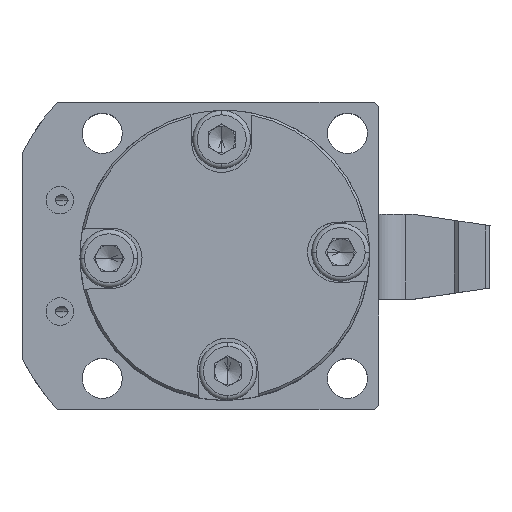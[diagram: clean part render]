
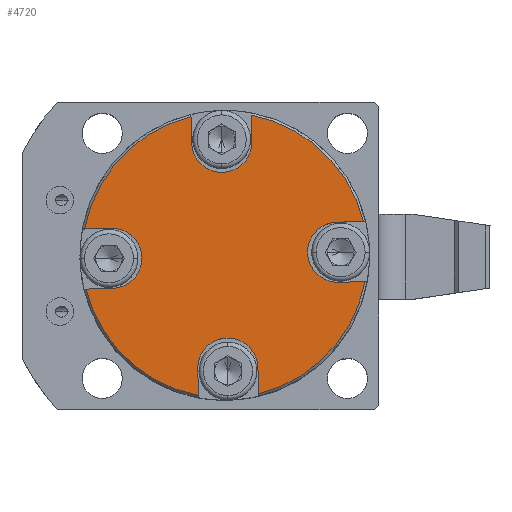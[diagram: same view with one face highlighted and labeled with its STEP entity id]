
A CAD part, top view. The second image highlights one B-rep face of the part: STEP entity #4720.
In plain terms, the highlighted planar face has unit normal (0, 0, 1) as drawn and (0, -1, 0) by its records, which use the part's own axes.
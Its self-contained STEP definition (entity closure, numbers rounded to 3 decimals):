
#71 = EDGE_CURVE ( 'NONE', #19013, #21711, #20400, .T. ) ;
#72 = EDGE_CURVE ( 'NONE', #19038, #19040, #20401, .T. ) ;
#73 = EDGE_CURVE ( 'NONE', #21563, #18991, #20402, .T. ) ;
#74 = EDGE_CURVE ( 'NONE', #21563, #19199, #10868, .T. ) ;
#75 = EDGE_CURVE ( 'NONE', #18999, #19022, #20403, .T. ) ;
#78 = EDGE_CURVE ( 'NONE', #21670, #19038, #10877, .T. ) ;
#79 = EDGE_CURVE ( 'NONE', #19048, #21670, #20405, .T. ) ;
#84 = EDGE_CURVE ( 'NONE', #19036, #19199, #20407, .T. ) ;
#85 = EDGE_CURVE ( 'NONE', #19022, #19036, #10884, .T. ) ;
#92 = EDGE_CURVE ( 'NONE', #21737, #19016, #20409, .T. ) ;
#93 = EDGE_CURVE ( 'NONE', #21711, #21737, #10903, .T. ) ;
#94 = EDGE_CURVE ( 'NONE', #6333, #21742, #20410, .T. ) ;
#95 = EDGE_CURVE ( 'NONE', #18991, #6194, #10907, .T. ) ;
#1159 = ORIENTED_EDGE ( 'NONE', *, *, #93, .F. ) ;
#1162 = ORIENTED_EDGE ( 'NONE', *, *, #18012, .T. ) ;
#1163 = ORIENTED_EDGE ( 'NONE', *, *, #92, .F. ) ;
#1164 = ORIENTED_EDGE ( 'NONE', *, *, #71, .F. ) ;
#1165 = ORIENTED_EDGE ( 'NONE', *, *, #18018, .T. ) ;
#1166 = ORIENTED_EDGE ( 'NONE', *, *, #72, .F. ) ;
#1167 = ORIENTED_EDGE ( 'NONE', *, *, #79, .F. ) ;
#1168 = ORIENTED_EDGE ( 'NONE', *, *, #78, .F. ) ;
#1169 = ORIENTED_EDGE ( 'NONE', *, *, #18021, .T. ) ;
#1170 = ORIENTED_EDGE ( 'NONE', *, *, #94, .F. ) ;
#1171 = ORIENTED_EDGE ( 'NONE', *, *, #17950, .F. ) ;
#1172 = ORIENTED_EDGE ( 'NONE', *, *, #95, .F. ) ;
#1173 = ORIENTED_EDGE ( 'NONE', *, *, #74, .T. ) ;
#1174 = ORIENTED_EDGE ( 'NONE', *, *, #73, .F. ) ;
#1175 = ORIENTED_EDGE ( 'NONE', *, *, #84, .F. ) ;
#1176 = ORIENTED_EDGE ( 'NONE', *, *, #85, .F. ) ;
#1177 = ORIENTED_EDGE ( 'NONE', *, *, #75, .F. ) ;
#1835 = AXIS2_PLACEMENT_3D ( 'NONE', #10597, #10598, #10599 ) ;
#4036 = CIRCLE ( 'NONE', #4042, 6.75 ) ;
#4042 = AXIS2_PLACEMENT_3D ( 'NONE', #11641, #11642, #11643 ) ;
#4144 = CIRCLE ( 'NONE', #4145, 32. ) ;
#4145 = AXIS2_PLACEMENT_3D ( 'NONE', #11804, #11805, #11806 ) ;
#4148 = CIRCLE ( 'NONE', #4149, 32. ) ;
#4149 = AXIS2_PLACEMENT_3D ( 'NONE', #11826, #11827, #11828 ) ;
#4150 = CIRCLE ( 'NONE', #4151, 32. ) ;
#4151 = AXIS2_PLACEMENT_3D ( 'NONE', #11837, #11838, #11839 ) ;
#4720 = ADVANCED_FACE ( 'NONE', ( #21145 ), #10596, .F. ) ;
#6194 = VERTEX_POINT ( 'NONE', #9280 ) ;
#6333 = VERTEX_POINT ( 'NONE', #9402 ) ;
#9280 = CARTESIAN_POINT ( 'NONE',  ( 759.407, 3487.524, 18.582 ) ) ;
#9402 = CARTESIAN_POINT ( 'NONE',  ( 766.157, 3487.524, 25.332 ) ) ;
#10596 = PLANE ( 'NONE',  #1835 ) ;
#10597 = CARTESIAN_POINT ( 'NONE',  ( 759.407, 3487.524, 0. ) ) ;
#10598 = DIRECTION ( 'NONE',  ( 0., 1., 0. ) ) ;
#10599 = DIRECTION ( 'NONE',  ( 0., 0., 1. ) ) ;
#10868 = CIRCLE ( 'NONE', #10872, 32. ) ;
#10869 = VECTOR ( 'NONE', #23142, 1000. ) ;
#10870 = VECTOR ( 'NONE', #23140, 1000. ) ;
#10871 = VECTOR ( 'NONE', #23144, 1000. ) ;
#10872 = AXIS2_PLACEMENT_3D ( 'NONE', #23138, #23137, #23131 ) ;
#10875 = VECTOR ( 'NONE', #23136, 1000. ) ;
#10877 = CIRCLE ( 'NONE', #10880, 6.75 ) ;
#10880 = AXIS2_PLACEMENT_3D ( 'NONE', #22922, #22937, #22947 ) ;
#10882 = VECTOR ( 'NONE', #22899, 1000. ) ;
#10884 = CIRCLE ( 'NONE', #10892, 6.75 ) ;
#10891 = VECTOR ( 'NONE', #22920, 1000. ) ;
#10892 = AXIS2_PLACEMENT_3D ( 'NONE', #22923, #22914, #22928 ) ;
#10903 = CIRCLE ( 'NONE', #10905, 6.75 ) ;
#10904 = VECTOR ( 'NONE', #22919, 1000. ) ;
#10905 = AXIS2_PLACEMENT_3D ( 'NONE', #22915, #22909, #22911 ) ;
#10907 = CIRCLE ( 'NONE', #10909, 6.75 ) ;
#10908 = VECTOR ( 'NONE', #22900, 1000. ) ;
#10909 = AXIS2_PLACEMENT_3D ( 'NONE', #22892, #22896, #22895 ) ;
#11641 = CARTESIAN_POINT ( 'NONE',  ( 759.407, 3487.524, 25.332 ) ) ;
#11642 = DIRECTION ( 'NONE',  ( 0., -1., 0. ) ) ;
#11643 = DIRECTION ( 'NONE',  ( 1., 0., 0. ) ) ;
#11804 = CARTESIAN_POINT ( 'NONE',  ( 759.407, 3487.524, 0. ) ) ;
#11805 = DIRECTION ( 'NONE',  ( 0., -1., 0. ) ) ;
#11806 = DIRECTION ( 'NONE',  ( 0., 0., 1. ) ) ;
#11826 = CARTESIAN_POINT ( 'NONE',  ( 759.407, 3487.524, 0. ) ) ;
#11827 = DIRECTION ( 'NONE',  ( 0., -1., 0. ) ) ;
#11828 = DIRECTION ( 'NONE',  ( 0., 0., 1. ) ) ;
#11837 = CARTESIAN_POINT ( 'NONE',  ( 759.407, 3487.524, 0. ) ) ;
#11838 = DIRECTION ( 'NONE',  ( 0., -1., 0. ) ) ;
#11839 = DIRECTION ( 'NONE',  ( 0., 0., 1. ) ) ;
#11979 = CARTESIAN_POINT ( 'NONE',  ( 752.657, 3487.524, 25.332 ) ) ;
#11987 = CARTESIAN_POINT ( 'NONE',  ( 728.127, 3487.524, -6.75 ) ) ;
#12001 = CARTESIAN_POINT ( 'NONE',  ( 766.157, 3487.524, -31.28 ) ) ;
#12004 = CARTESIAN_POINT ( 'NONE',  ( 752.657, 3487.524, -31.28 ) ) ;
#12010 = CARTESIAN_POINT ( 'NONE',  ( 734.075, 3487.524, -6.75 ) ) ;
#12024 = CARTESIAN_POINT ( 'NONE',  ( 734.075, 3487.524, 6.75 ) ) ;
#12026 = CARTESIAN_POINT ( 'NONE',  ( 784.738, 3487.524, -6.75 ) ) ;
#12028 = CARTESIAN_POINT ( 'NONE',  ( 790.687, 3487.524, -6.75 ) ) ;
#12036 = CARTESIAN_POINT ( 'NONE',  ( 790.687, 3487.524, 6.75 ) ) ;
#12187 = CARTESIAN_POINT ( 'NONE',  ( 728.127, 3487.524, 6.75 ) ) ;
#12424 = CARTESIAN_POINT ( 'NONE',  ( 752.657, 3487.524, 31.28 ) ) ;
#12531 = CARTESIAN_POINT ( 'NONE',  ( 784.738, 3487.524, 6.75 ) ) ;
#12572 = CARTESIAN_POINT ( 'NONE',  ( 766.157, 3487.524, -25.332 ) ) ;
#16780 = CARTESIAN_POINT ( 'NONE',  ( 752.657, 3487.524, -25.332 ) ) ;
#16785 = CARTESIAN_POINT ( 'NONE',  ( 766.157, 3487.524, 31.28 ) ) ;
#17950 = EDGE_CURVE ( 'NONE', #6194, #6333, #4036, .T. ) ;
#18012 = EDGE_CURVE ( 'NONE', #18999, #19016, #4144, .T. ) ;
#18018 = EDGE_CURVE ( 'NONE', #19013, #19040, #4148, .T. ) ;
#18021 = EDGE_CURVE ( 'NONE', #19048, #21742, #4150, .T. ) ;
#18991 = VERTEX_POINT ( 'NONE', #11979 ) ;
#18999 = VERTEX_POINT ( 'NONE', #11987 ) ;
#19013 = VERTEX_POINT ( 'NONE', #12001 ) ;
#19016 = VERTEX_POINT ( 'NONE', #12004 ) ;
#19022 = VERTEX_POINT ( 'NONE', #12010 ) ;
#19036 = VERTEX_POINT ( 'NONE', #12024 ) ;
#19038 = VERTEX_POINT ( 'NONE', #12026 ) ;
#19040 = VERTEX_POINT ( 'NONE', #12028 ) ;
#19048 = VERTEX_POINT ( 'NONE', #12036 ) ;
#19199 = VERTEX_POINT ( 'NONE', #12187 ) ;
#19781 = EDGE_LOOP ( 'NONE', ( #1162, #1163, #1159, #1164, #1165, #1166, #1168, #1167, #1169, #1170, #1171, #1172, #1174, #1173, #1175, #1176, #1177 ) ) ;
#20400 = LINE ( 'NONE', #23143, #10869 ) ;
#20401 = LINE ( 'NONE', #23141, #10870 ) ;
#20402 = LINE ( 'NONE', #23139, #10871 ) ;
#20403 = LINE ( 'NONE', #23135, #10875 ) ;
#20405 = LINE ( 'NONE', #22894, #10882 ) ;
#20407 = LINE ( 'NONE', #22916, #10891 ) ;
#20409 = LINE ( 'NONE', #22917, #10904 ) ;
#20410 = LINE ( 'NONE', #22906, #10908 ) ;
#21145 = FACE_OUTER_BOUND ( 'NONE', #19781, .T. ) ;
#21563 = VERTEX_POINT ( 'NONE', #12424 ) ;
#21670 = VERTEX_POINT ( 'NONE', #12531 ) ;
#21711 = VERTEX_POINT ( 'NONE', #12572 ) ;
#21737 = VERTEX_POINT ( 'NONE', #16780 ) ;
#21742 = VERTEX_POINT ( 'NONE', #16785 ) ;
#22892 = CARTESIAN_POINT ( 'NONE',  ( 759.407, 3487.524, 25.332 ) ) ;
#22894 = CARTESIAN_POINT ( 'NONE',  ( 791.198, 3487.524, 6.75 ) ) ;
#22895 = DIRECTION ( 'NONE',  ( 1., 0., 0. ) ) ;
#22896 = DIRECTION ( 'NONE',  ( 0., -1., 0. ) ) ;
#22899 = DIRECTION ( 'NONE',  ( -1., 0., 0. ) ) ;
#22900 = DIRECTION ( 'NONE',  ( 0., 0., 1. ) ) ;
#22906 = CARTESIAN_POINT ( 'NONE',  ( 766.157, 3487.524, 31.791 ) ) ;
#22909 = DIRECTION ( 'NONE',  ( 0., -1., 0. ) ) ;
#22911 = DIRECTION ( 'NONE',  ( -1., 0., 0. ) ) ;
#22914 = DIRECTION ( 'NONE',  ( 0., -1., 0. ) ) ;
#22915 = CARTESIAN_POINT ( 'NONE',  ( 759.407, 3487.524, -25.332 ) ) ;
#22916 = CARTESIAN_POINT ( 'NONE',  ( 727.615, 3487.524, 6.75 ) ) ;
#22917 = CARTESIAN_POINT ( 'NONE',  ( 752.657, 3487.524, -31.791 ) ) ;
#22919 = DIRECTION ( 'NONE',  ( 0., 0., -1. ) ) ;
#22920 = DIRECTION ( 'NONE',  ( -1., 0., 0. ) ) ;
#22922 = CARTESIAN_POINT ( 'NONE',  ( 784.738, 3487.524, 0. ) ) ;
#22923 = CARTESIAN_POINT ( 'NONE',  ( 734.075, 3487.524, 0. ) ) ;
#22928 = DIRECTION ( 'NONE',  ( 0., 0., 1. ) ) ;
#22937 = DIRECTION ( 'NONE',  ( 0., -1., 0. ) ) ;
#22947 = DIRECTION ( 'NONE',  ( 0., 0., -1. ) ) ;
#23131 = DIRECTION ( 'NONE',  ( 0., 0., 1. ) ) ;
#23135 = CARTESIAN_POINT ( 'NONE',  ( 727.615, 3487.524, -6.75 ) ) ;
#23136 = DIRECTION ( 'NONE',  ( 1., 0., 0. ) ) ;
#23137 = DIRECTION ( 'NONE',  ( 0., -1., 0. ) ) ;
#23138 = CARTESIAN_POINT ( 'NONE',  ( 759.407, 3487.524, 0. ) ) ;
#23139 = CARTESIAN_POINT ( 'NONE',  ( 752.657, 3487.524, 31.791 ) ) ;
#23140 = DIRECTION ( 'NONE',  ( 1., 0., 0. ) ) ;
#23141 = CARTESIAN_POINT ( 'NONE',  ( 791.198, 3487.524, -6.75 ) ) ;
#23142 = DIRECTION ( 'NONE',  ( 0., 0., 1. ) ) ;
#23143 = CARTESIAN_POINT ( 'NONE',  ( 766.157, 3487.524, -31.791 ) ) ;
#23144 = DIRECTION ( 'NONE',  ( 0., 0., -1. ) ) ;
